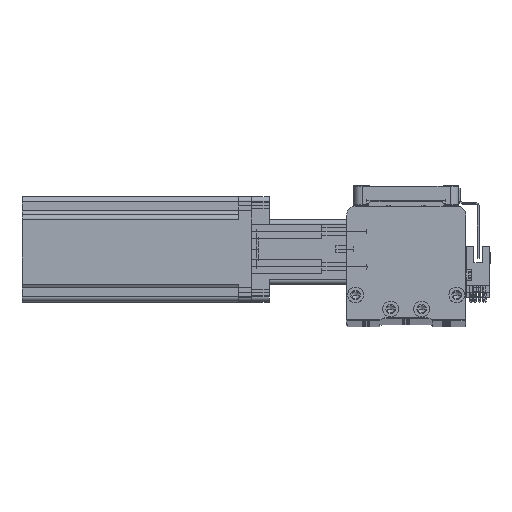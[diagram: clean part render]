
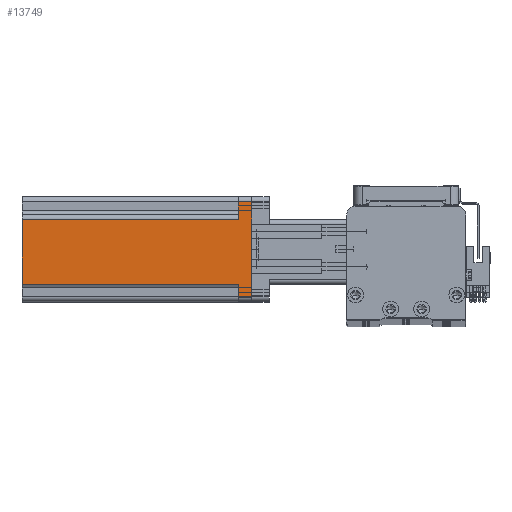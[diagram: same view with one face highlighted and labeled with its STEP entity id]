
A CAD part, top view. The second image highlights one B-rep face of the part: STEP entity #13749.
In plain terms, the highlighted planar face has unit normal (0, 0, 1) as drawn and (-1, 0, 0) by its records, which use the part's own axes.
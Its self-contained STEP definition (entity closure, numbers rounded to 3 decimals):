
#855 = CARTESIAN_POINT ( 'NONE',  ( -30., 27., 130.7 ) ) ;
#1766 = ORIENTED_EDGE ( 'NONE', *, *, #2839, .F. ) ;
#2146 = DIRECTION ( 'NONE',  ( 0., 0., 1. ) ) ;
#2447 = VERTEX_POINT ( 'NONE', #5592 ) ;
#2839 = EDGE_CURVE ( 'NONE', #26703, #2447, #16452, .T. ) ;
#3174 = LINE ( 'NONE', #855, #46535 ) ;
#3548 = ORIENTED_EDGE ( 'NONE', *, *, #53651, .T. ) ;
#3975 = DIRECTION ( 'NONE',  ( 0., 0., 1. ) ) ;
#4510 = DIRECTION ( 'NONE',  ( 0., -1., 0. ) ) ;
#4595 = CARTESIAN_POINT ( 'NONE',  ( -30., 27., 7.5 ) ) ;
#5298 = VECTOR ( 'NONE', #27230, 1000. ) ;
#5592 = CARTESIAN_POINT ( 'NONE',  ( -30., -27., 7.5 ) ) ;
#7111 = VECTOR ( 'NONE', #4510, 1000. ) ;
#8603 = LINE ( 'NONE', #32111, #51999 ) ;
#9389 = DIRECTION ( 'NONE',  ( 0., 0., -1. ) ) ;
#9599 = DIRECTION ( 'NONE',  ( 0., 1., 0. ) ) ;
#13749 = ADVANCED_FACE ( 'NONE', ( #39391 ), #51853, .F. ) ;
#14136 = CARTESIAN_POINT ( 'NONE',  ( -30., -30., 130.7 ) ) ;
#14517 = AXIS2_PLACEMENT_3D ( 'NONE', #14136, #43540, #18340 ) ;
#14836 = CARTESIAN_POINT ( 'NONE',  ( -30., 20., 7.5 ) ) ;
#16452 = LINE ( 'NONE', #39726, #5298 ) ;
#18159 = ORIENTED_EDGE ( 'NONE', *, *, #44550, .T. ) ;
#18188 = LINE ( 'NONE', #25405, #7111 ) ;
#18340 = DIRECTION ( 'NONE',  ( 0., 0., -1. ) ) ;
#18601 = VERTEX_POINT ( 'NONE', #4595 ) ;
#19619 = VECTOR ( 'NONE', #45594, 1000. ) ;
#19990 = EDGE_CURVE ( 'NONE', #18601, #48249, #3174, .T. ) ;
#20173 = EDGE_CURVE ( 'NONE', #44954, #45826, #32085, .T. ) ;
#20426 = CARTESIAN_POINT ( 'NONE',  ( -30., -30., 130.7 ) ) ;
#20629 = CARTESIAN_POINT ( 'NONE',  ( -30., -27., 0. ) ) ;
#20674 = CARTESIAN_POINT ( 'NONE',  ( -30., -27., 130.7 ) ) ;
#23246 = CARTESIAN_POINT ( 'NONE',  ( -30., -17., 7.5 ) ) ;
#23362 = VECTOR ( 'NONE', #9599, 1000. ) ;
#25405 = CARTESIAN_POINT ( 'NONE',  ( -30., -30., 0. ) ) ;
#26267 = VECTOR ( 'NONE', #3975, 1000. ) ;
#26703 = VERTEX_POINT ( 'NONE', #23246 ) ;
#27230 = DIRECTION ( 'NONE',  ( 0., -1., 0. ) ) ;
#27613 = LINE ( 'NONE', #20674, #26267 ) ;
#29386 = CARTESIAN_POINT ( 'NONE',  ( -30., 20., 130.7 ) ) ;
#31145 = ORIENTED_EDGE ( 'NONE', *, *, #38679, .T. ) ;
#31228 = ORIENTED_EDGE ( 'NONE', *, *, #33437, .T. ) ;
#32035 = VERTEX_POINT ( 'NONE', #53182 ) ;
#32085 = LINE ( 'NONE', #14836, #41918 ) ;
#32111 = CARTESIAN_POINT ( 'NONE',  ( -30., -17., 130.7 ) ) ;
#32140 = LINE ( 'NONE', #20426, #19619 ) ;
#33437 = EDGE_CURVE ( 'NONE', #26703, #32035, #8603, .T. ) ;
#35782 = VERTEX_POINT ( 'NONE', #20629 ) ;
#36278 = DIRECTION ( 'NONE',  ( 0., 0., 1. ) ) ;
#38679 = EDGE_CURVE ( 'NONE', #48249, #35782, #18188, .T. ) ;
#39391 = FACE_OUTER_BOUND ( 'NONE', #48127, .T. ) ;
#39726 = CARTESIAN_POINT ( 'NONE',  ( -30., -30., 7.5 ) ) ;
#41564 = ORIENTED_EDGE ( 'NONE', *, *, #20173, .F. ) ;
#41918 = VECTOR ( 'NONE', #2146, 1000. ) ;
#43540 = DIRECTION ( 'NONE',  ( 1., 0., 0. ) ) ;
#44550 = EDGE_CURVE ( 'NONE', #44954, #18601, #45719, .T. ) ;
#44954 = VERTEX_POINT ( 'NONE', #51784 ) ;
#45594 = DIRECTION ( 'NONE',  ( 0., -1., 0. ) ) ;
#45719 = LINE ( 'NONE', #47360, #23362 ) ;
#45826 = VERTEX_POINT ( 'NONE', #29386 ) ;
#46535 = VECTOR ( 'NONE', #9389, 1000. ) ;
#46663 = ORIENTED_EDGE ( 'NONE', *, *, #19990, .T. ) ;
#47360 = CARTESIAN_POINT ( 'NONE',  ( -30., 30., 7.5 ) ) ;
#48127 = EDGE_LOOP ( 'NONE', ( #1766, #31228, #54195, #41564, #18159, #46663, #31145, #3548 ) ) ;
#48249 = VERTEX_POINT ( 'NONE', #53229 ) ;
#51784 = CARTESIAN_POINT ( 'NONE',  ( -30., 20., 7.5 ) ) ;
#51853 = PLANE ( 'NONE',  #14517 ) ;
#51999 = VECTOR ( 'NONE', #36278, 1000. ) ;
#53182 = CARTESIAN_POINT ( 'NONE',  ( -30., -17., 130.7 ) ) ;
#53229 = CARTESIAN_POINT ( 'NONE',  ( -30., 27., 0. ) ) ;
#53651 = EDGE_CURVE ( 'NONE', #35782, #2447, #27613, .T. ) ;
#54177 = EDGE_CURVE ( 'NONE', #45826, #32035, #32140, .T. ) ;
#54195 = ORIENTED_EDGE ( 'NONE', *, *, #54177, .F. ) ;
